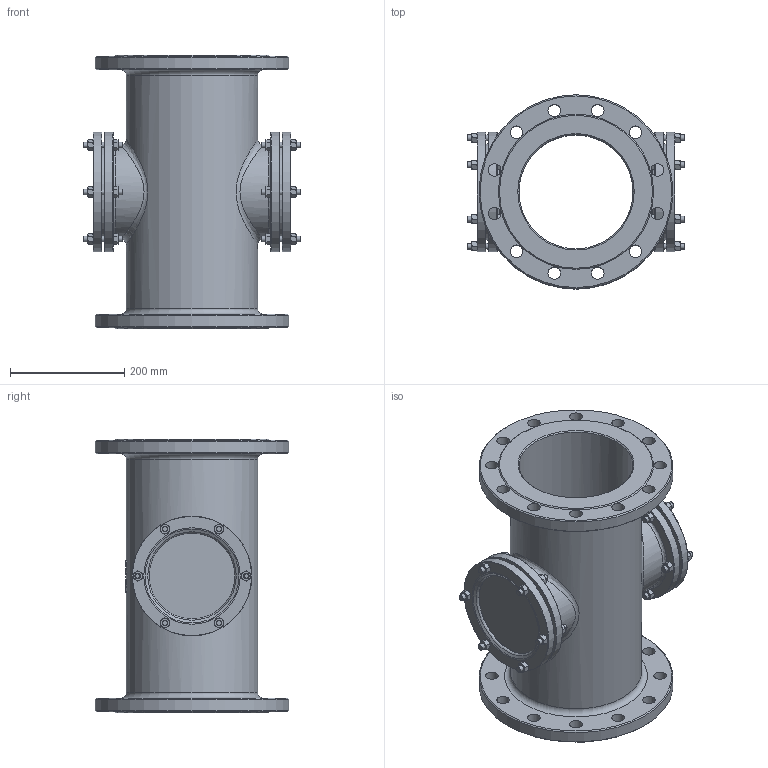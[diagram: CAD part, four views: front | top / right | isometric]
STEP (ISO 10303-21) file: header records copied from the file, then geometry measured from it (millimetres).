
FILE_DESCRIPTION(('STEP AP242'), '1');
FILE_NAME('SG2-34G-F Ñòåêëî ñìîòðîâîå DN.ru Äó200 Ðó16', '', ('UNSPECIFIED'), ('UNSPECIFIED'), 'C3D Converter', 'C3D Toolkit', '');
FILE_SCHEMA(('AP242_MANAGED_MODEL_BASED_3D_ENGINEERING_MIM_LF { 1 0 10303 442 1 1 4 }'));
Length unit declared in the file: millimetre
Products named in the file (1): SG2-34G-F
Bounding box: 382 x 340 x 480 mm (x, y, z)
Volume: 8360186.1 mm3; surface area: 1151547.9 mm2
Topology: 1 solids, 1 shells, 695 faces, 1627 edges, 991 vertices
Faces by surface type: cone 322, plane 247, cylinder 83, bspline 27, torus 16
Full cylindrical faces by diameter (mm): 10 x36, 22 x24, 150 x4, 165 x2, 170 x2, 200 x1, 210 x4, 230 x1, 340 x2
Entity records: 39679 total; most frequent: CARTESIAN_POINT 23669, ORIENTED_EDGE 2978, DIRECTION 2716, EDGE_CURVE 1489, AXIS2_PLACEMENT_3D 1238, VERTEX_POINT 985, EDGE_LOOP 958, FACE_BOUND 784
